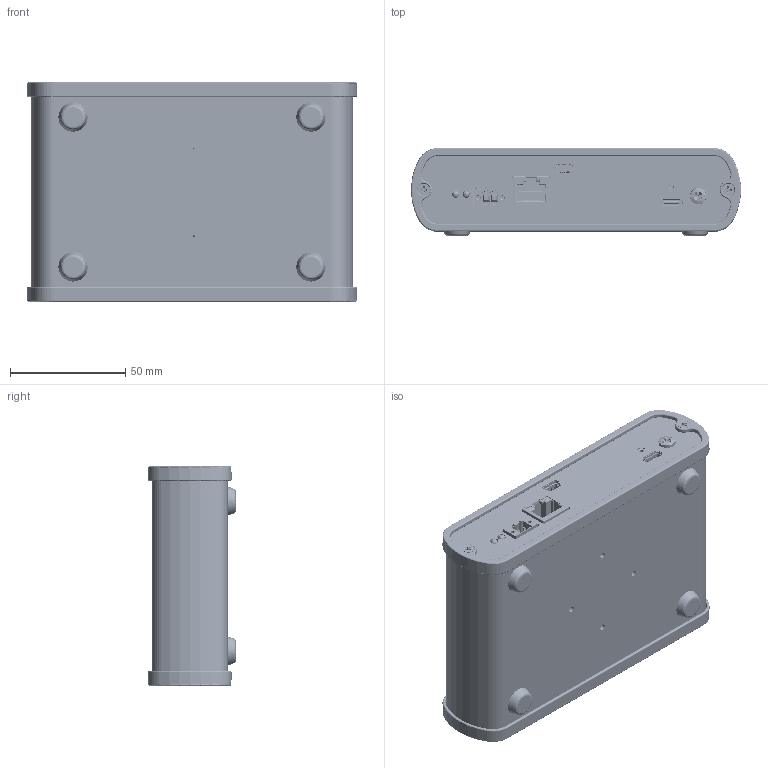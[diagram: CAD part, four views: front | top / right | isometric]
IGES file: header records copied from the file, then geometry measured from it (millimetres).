
Start section:  PTC IGES file: cu_ivn-8563.igs
Global section: file name: cu_ivn-8563.igs; native system: Creo Parametric by PTC Inc.; preprocessor: 2021063; author: dkendric; organization: Unknown; date: 20240819.094917; units: millimetre
Bounding box: 143.21 x 38 x 95.1 mm (x, y, z)
Surface area: 140090.8 mm2 (no closed solid volume)
Topology: 0 solids, 0 shells, 14578 faces, 78354 edges, 78334 vertices
Faces by surface type: bspline 11976, revolution 2588, extrusion 14
